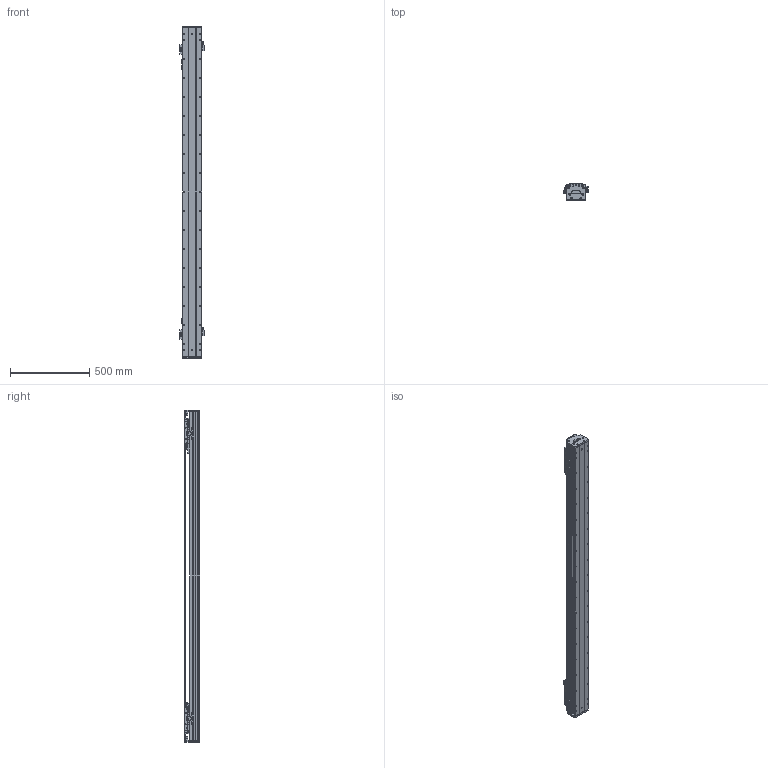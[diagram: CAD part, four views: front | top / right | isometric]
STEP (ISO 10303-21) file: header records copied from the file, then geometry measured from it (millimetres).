
FILE_DESCRIPTION (( 'STEP AP203' ), '1' );
FILE_NAME ('DKW119-2×C2-W060(T1580-L005-0.2).STEP', '2021-09-15T06:48:18', ( '微软用户' ), ( '微软中国' ), 'SwSTEP 2.0', 'SolidWorks 2018', '' );
FILE_SCHEMA (( 'CONFIG_CONTROL_DESIGN' ));
Length unit declared in the file: millimetre
Products named in the file (26): CKM02-W060_00; DKW119 单轴模组-拉钢带组件; CKMA01-W060-TRLxxx; DKW-DG-XJ-Z-00 笢潔滅袉砎蝶; pm-y65; DKW-HXJ-JY-00 遣喳砎蝶; DKW-GYP-ZJ-00 笢潔嫖萇覜茼え; 10980-0001-003-00 嫖萇羲壽嘐隅釱; 11062-0001-004-00 DKW119傷啣; DKW-KGZ-ZJ-00 中间光电开关支架; 嫖萇羲壽蚾饜极; 06652-0001-004-00 DKW120嶺輸菜輸; EE_SX674A; 嫖萇羲壽蚾饜极A; 12018-0001-002-00 詩湍; 12018-0001-001-00 菁釱; DKW119-2×C2-W060(T1580-L005-0.2); DKW-SG-GYP-H-00 嫖萇覜茼え; 砎蝶猾沭; MSB15-DG-U; RUS嫖掑喜; 12160-0000-003-00 DKW120詩湍嶺輸; DKW119-RU-DTJ-00 RU2黍杅芛盓殤; Ru2; 12160-0000-004-00  DKW120詩湍揤輸; 电机出线 ^DKW119-2×C2-W060(T1580-L005-0.2)
Assembly tree (45 placements, depth 3):
  DKW119-2×C2-W060(T1580-L005-0.2)
    12018-0001-001-00 菁釱
    MSB15-DG-U  x2
    DKW119-RU-DTJ-00 RU2黍杅芛盓殤  x2
    电机出线 ^DKW119-2×C2-W060(T1580-L005-0.2)  x2
    CKMA01-W060-TRLxxx
    DKW119 单轴模组-拉钢带组件
      DKW-HXJ-JY-00 遣喳砎蝶  x4
      11062-0001-004-00 DKW119傷啣  x2
      06652-0001-004-00 DKW120嶺輸菜輸  x4
      12018-0001-002-00 詩湍
      砎蝶猾沭  x2
      12160-0000-003-00 DKW120詩湍嶺輸  x2
      12160-0000-004-00  DKW120詩湍揤輸  x2
    嫖萇羲壽蚾饜极
      pm-y65  x2
      10980-0001-003-00 嫖萇羲壽嘐隅釱
    嫖萇羲壽蚾饜极A
      pm-y65  x2
      10980-0001-003-00 嫖萇羲壽嘐隅釱
    DKW-SG-GYP-H-00 嫖萇覜茼え  x2
    RUS嫖掑喜
    Ru2  x2
    CKM02-W060_00  x2
    DKW-DG-XJ-Z-00 笢潔滅袉砎蝶
    DKW-GYP-ZJ-00 笢潔嫖萇覜茼え
    DKW-KGZ-ZJ-00 中间光电开关支架
    EE_SX674A
Bounding box: 154.3 x 99 x 2096 mm (x, y, z)
Volume: 9762532 mm3; surface area: 3108634.4 mm2
Topology: 62 solids, 160 shells, 6281 faces, 16710 edges, 10782 vertices
Faces by surface type: plane 3492, cylinder 1873, bspline 494, cone 422
Entity records: 128279 total; most frequent: CARTESIAN_POINT 43202, ORIENTED_EDGE 17123, DIRECTION 16294, EDGE_CURVE 8602, VERTEX_POINT 5652, AXIS2_PLACEMENT_3D 5442, LINE 5410, VECTOR 5410
